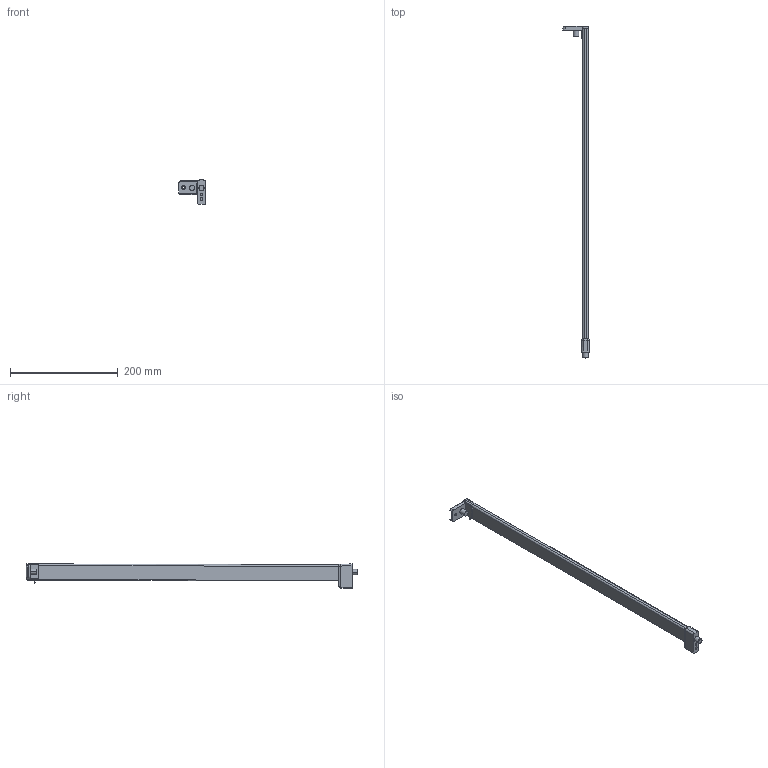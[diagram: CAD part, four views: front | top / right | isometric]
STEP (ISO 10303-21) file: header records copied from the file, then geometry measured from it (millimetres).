
FILE_DESCRIPTION (( 'STEP AP214' ), '1' );
FILE_NAME ('_2S_REL_7606_NL600_RE.step', '2010-07-01T14:41:38', ( 'grass' ), ( '' ), 'SwSTEP 2.0', 'SolidWorks 2009', '' );
FILE_SCHEMA (( 'AUTOMOTIVE_DESIGN' ));
Length unit declared in the file: millimetre
Products named in the file (1): _2S_REL_7606_NL600_RE
Bounding box: 49.25 x 615.5 x 45.4 mm (x, y, z)
Volume: 200665.8 mm3; surface area: 53080.8 mm2
Topology: 2 solids, 2 shells, 120 faces, 292 edges, 178 vertices
Faces by surface type: cylinder 58, plane 40, bspline 10, torus 6, cone 4, sphere 2
Entity records: 4659 total; most frequent: CARTESIAN_POINT 1934, ORIENTED_EDGE 580, DIRECTION 546, EDGE_CURVE 290, AXIS2_PLACEMENT_3D 203, VERTEX_POINT 178, LINE 140, VECTOR 140
